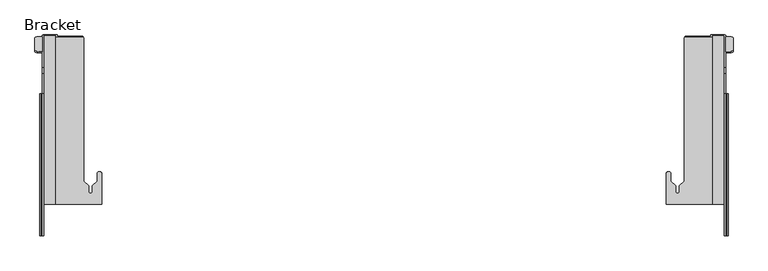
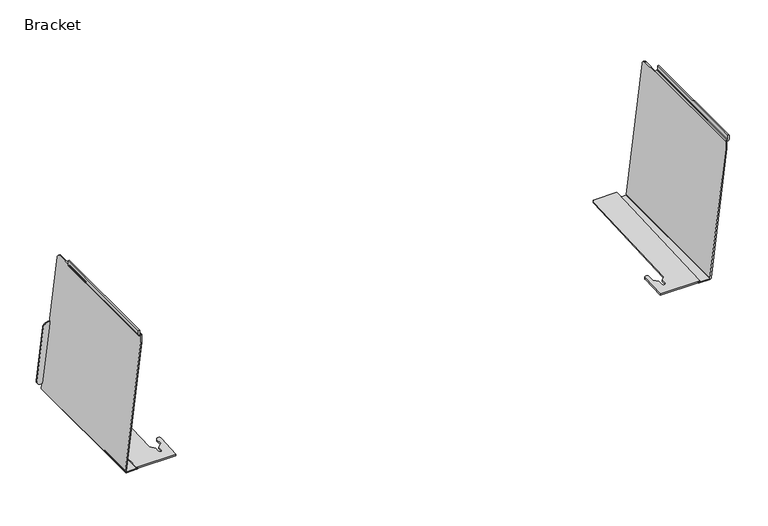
"""IFC4 building model written with IfcOpenShell, lengths in millimetres: furniture geometry, Steelcase Turnstone - Bivi - Seat - Rumble Seat - Table Frame Attachment Bracket : Bracket."""

from ifc_helpers import new_model, si_unit, frame, origin, place, context, project, spatial, polyline, circle_curve, ellipse_curve, source, transform, mapped, element, save
from ifc_brep_helpers import plane_surface, cylinder_surface, revolved_surface, advanced_brep


def bracket_b20a2959(model_context):
    return source(origin(), model_context, "Body", "AdvancedBrep", [
        advanced_brep(
        [(1584.7267646, 163.5694426, 504.6641143), (1596.6565127, 165.6410462, 492.9154667), (1596.6565127, 194.0437098, 331.8359571), (1583.9565157, 196.2490672, 319.3287534), (1580.6037127, 196.2490672, 319.3287534), (1580.6037127, 163.5694426, 504.6641143), (1584.7267646, 161.2981934, 504.2522241), (1580.6037127, 161.2981934, 504.2522241), (1580.6037127, 194.8790539, 319.080302), (1583.9565157, 194.8790539, 319.080302), (1596.6565127, 192.6128772, 331.5764762), (1596.6565127, 163.4269275, 492.5139371)],
        [
            (0, 1, ellipse_curve(frame((1584.7267646, 165.6410462, 492.9154667), z_axis=(0.0, 0.9848077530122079, 0.17364817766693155), x_axis=(0.0, 0.1736481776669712, -0.984807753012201)), 11.9298894, 11.9297481)),
            (1, 2),
            (2, 3, ellipse_curve(frame((1583.9565157, 194.0437098, 331.8359571), z_axis=(0.0, 0.9848077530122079, 0.17364817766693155), x_axis=(0.0, 0.1736481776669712, -0.984807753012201)), 12.7001475, 12.6999971)),
            (3, 4),
            (4, 5),
            (5, 0),
            (6, 7),
            (7, 8),
            (8, 9),
            (9, 10, circle_curve(frame((1583.9565157, 192.6128772, 331.5764762), z_axis=(0.0, -0.9839509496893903, -0.1784391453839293), x_axis=(0.0, 0.1784391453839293, -0.9839509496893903)), 12.6999971)),
            (10, 11),
            (11, 6, circle_curve(frame((1584.7267646, 163.4269275, 492.5139371), z_axis=(0.0, -0.9839509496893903, -0.1784391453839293), x_axis=(0.0, 0.1784391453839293, -0.9839509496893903)), 11.9297481)),
            (6, 0),
            (5, 7),
            (4, 8),
            (3, 9),
            (2, 10),
            (1, 11),
        ],
        [
            plane_surface(frame((-105.6465848, 130.1351991, 694.2791319), z_axis=(0.0, 0.9848077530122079, 0.17364817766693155), x_axis=(1.0, 0.0, 0.0))),
            plane_surface(frame((1584.7267646, 165.5556615, 480.7756501), z_axis=(0.0, -0.9839509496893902, -0.17843914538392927), x_axis=(-1.0, 0.0, 0.0))),
            plane_surface(frame((1580.6037127, 161.2981934, 504.2522241), z_axis=(0.0, -0.17843914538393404, 0.9839509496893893), x_axis=(0.0, 0.9839509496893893, 0.17843914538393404))),
            plane_surface(frame((1580.6037127, 194.8790539, 319.080302), z_axis=(-1.0, 0.0, 0.0), x_axis=(0.0, 0.9839509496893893, 0.17843914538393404))),
            plane_surface(frame((1583.9565157, 194.8790539, 319.080302), z_axis=(0.0, 0.17843914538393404, -0.9839509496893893), x_axis=(0.0, 0.9839509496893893, 0.17843914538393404))),
            cylinder_surface(frame((1583.9565157, 195.6877218, 332.1340981), z_axis=(0.0, -0.9839509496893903, -0.1784391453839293), x_axis=(0.0, 0.1784391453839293, -0.9839509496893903)), 12.6999971),
            plane_surface(frame((1596.6565127, 163.4269275, 492.5139371), z_axis=(1.0, 0.0, 0.0), x_axis=(0.0, 0.9839509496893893, 0.17843914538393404))),
            cylinder_surface(frame((1584.7267646, 166.501772, 493.071559), z_axis=(0.0, -0.9839509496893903, -0.1784391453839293), x_axis=(0.0, 0.1784391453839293, -0.9839509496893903)), 11.9297481),
        ],
        [
            (0, [[1, 2, 3, 4, 5, 6]]),
            (1, [[7, 8, 9, 10, 11, 12]]),
            (2, [[13, -6, 14, -7]]),
            (3, [[-14, -5, 15, -8]]),
            (4, [[-15, -4, 16, -9]]),
            (5, [[-16, -3, 17, -10]]),
            (6, [[-17, -2, 18, -11]]),
            (7, [[-18, -1, -13, -12]]),
        ],
    ),
        advanced_brep(
        [(1552.0033127, 199.8723316, 298.7802), (1548.3318209, 199.8723316, 298.7802), (1548.3318209, 196.7451878, 316.5151141), (1493.0789112, 196.7451878, 316.5151141), (1492.7043624, 196.1325541, 319.9895321), (1552.0033127, 196.1325541, 319.9895321), (1452.5623127, -99.7722819, 307.2629397), (1452.5623127, -99.7722819, 303.2057285), (1452.5623127, -164.732528, 300.2899442), (1452.5623127, -164.732528, 304.4690599), (1552.0033127, -164.732528, 298.7802), (1552.0033127, -164.732528, 304.4690599), (1490.9912172, 189.7048221, 319.7130813), (1490.9912172, -115.0343618, 306.6065319), (1480.8833127, -125.1314569, 306.1722652), (1480.8833127, -137.4119102, 305.6440943), (1472.5013127, -137.4119102, 305.6440943), (1472.5013127, -125.1314569, 306.1722652), (1462.7223127, -115.3629146, 306.5924011), (1462.7223127, -99.7722819, 307.2629397), (1548.3318209, -164.732528, 300.2899442), (1548.3318209, -164.732528, 298.7802), (1490.9912172, 189.7048221, 316.1991026), (1462.7223127, -99.7722819, 303.2057285), (1462.7223127, -115.3629146, 302.5059325), (1472.5013127, -125.1314569, 302.0674649), (1472.5013127, -137.4119102, 301.5162485), (1480.8833127, -137.4119102, 301.5162485), (1480.8833127, -125.1314569, 302.0674649), (1490.9912172, -115.0343618, 302.5206798)],
        [
            (0, 1),
            (1, 2),
            (2, 3),
            (3, 4, ellipse_curve(frame((1503.9062358, 189.7048221, 356.4430116), z_axis=(0.0, 0.9848077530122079, 0.17364817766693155), x_axis=(0.0, 0.17364817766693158, -0.984807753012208)), 74.3746277, 12.9150186)),
            (4, 5),
            (5, 0),
            (6, 7),
            (7, 8),
            (8, 9),
            (9, 6),
            (10, 0),
            (5, 11),
            (11, 10),
            (4, 12, ellipse_curve(frame((1503.9062358, 189.7048221, 319.7130813), z_axis=(0.0, -0.04296934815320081, 0.9990763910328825), x_axis=(0.0, -0.9990763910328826, -0.04296934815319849)), 12.926958, 12.9150186)),
            (12, 13),
            (13, 14),
            (14, 15),
            (15, 16, ellipse_curve(frame((1476.6923127, -137.4119102, 305.6440943), z_axis=(0.0, 0.04296934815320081, -0.9990763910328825), x_axis=(0.0, 0.9990763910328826, 0.04296934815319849)), 4.1948744, 4.191)),
            (16, 17),
            (17, 18),
            (18, 19),
            (19, 6, ellipse_curve(frame((1457.6423127, -99.7722819, 307.2629397), z_axis=(0.0, -0.04296934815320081, 0.9990763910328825), x_axis=(0.0, -0.9990763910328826, -0.04296934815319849)), 5.0846963, 5.08)),
            (9, 11),
            (8, 20),
            (20, 21),
            (21, 10),
            (21, 1),
            (3, 22, ellipse_curve(frame((1503.9062358, 189.7048221, 316.1991026), z_axis=(0.0, -0.044840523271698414, 0.9989941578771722), x_axis=(0.0, -0.9989941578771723, -0.04484052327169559)), 12.9280221, 12.9150186)),
            (22, 12),
            (19, 23),
            (23, 7, ellipse_curve(frame((1457.6423127, -99.7722819, 303.2057285), z_axis=(0.0, -0.044840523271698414, 0.9989941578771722), x_axis=(0.0, -0.9989941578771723, -0.04484052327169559)), 5.0851148, 5.08)),
            (18, 24),
            (24, 23),
            (17, 25),
            (25, 24),
            (16, 26),
            (26, 25),
            (15, 27),
            (27, 26, ellipse_curve(frame((1476.6923127, -137.4119102, 301.5162485), z_axis=(0.0, 0.044840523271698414, -0.9989941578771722), x_axis=(0.0, 0.9989941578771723, 0.04484052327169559)), 4.1952197, 4.191)),
            (14, 28),
            (28, 27),
            (13, 29),
            (29, 28),
            (22, 29),
            (20, 2),
        ],
        [
            plane_surface(frame((-105.6465848, 130.1351991, 694.2791319), z_axis=(0.0, 0.9848077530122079, 0.17364817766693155), x_axis=(1.0, 0.0, 0.0))),
            plane_surface(frame((1452.5623127, -164.732528, 300.5888376), z_axis=(-1.0, 0.0, 0.0), x_axis=(0.0, 0.0, -1.0))),
            plane_surface(frame((1552.0033127, -164.732528, 300.5888376), z_axis=(1.0, 0.0, 0.0), x_axis=(0.0, 0.0, 1.0))),
            plane_surface(frame((1452.5623127, 200.4313954, 320.1744212), z_axis=(0.0, -0.04296934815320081, 0.9990763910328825), x_axis=(1.0, 0.0, 0.0))),
            plane_surface(frame((1452.5623127, -164.732528, 304.4690599), z_axis=(0.0, -1.0, 0.0), x_axis=(1.0, 0.0, 0.0))),
            plane_surface(frame((1452.5623127, -164.732528, 298.7802), z_axis=(0.0, 0.0, -1.0), x_axis=(1.0, 0.0, 0.0))),
            cylinder_surface(frame((1503.9062358, 189.7048221, 0.0), z_axis=(0.0, 0.0, -1.0), x_axis=(-1.0, 0.0, 0.0)), 12.9150186),
            cylinder_surface(frame((1457.6423127, -99.7722819, 0.0), z_axis=(0.0, 0.0, -1.0), x_axis=(-1.0, 0.0, 0.0)), 5.08),
            plane_surface(frame((1462.7223127, -115.3629146, 407.911709), z_axis=(1.0, 0.0, 0.0), x_axis=(0.0, 0.0, -1.0))),
            plane_surface(frame((1472.5013127, -125.1314569, 407.911709), z_axis=(0.7067283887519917, 0.7074849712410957, 0.0), x_axis=(0.0, 0.0, -1.0))),
            plane_surface(frame((1472.5013127, -137.4119102, 407.911709), z_axis=(1.0, 0.0, 0.0), x_axis=(0.0, 0.0, -1.0))),
            revolved_surface(polyline([(1472.5013127, -137.4119102, 305.82434531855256), (1472.5013127, -137.4119102, 301.3281326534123)]), (1476.6923127, -137.4119102, 0.0), (0.0, 0.0, 1.0)),
            plane_surface(frame((1480.8833127, -125.1314569, 407.911709), z_axis=(-1.0, 0.0, 0.0), x_axis=(0.0, 0.0, -1.0))),
            plane_surface(frame((1490.9912172, -115.0343618, 407.911709), z_axis=(-0.7067283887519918, 0.7074849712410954, 0.0), x_axis=(0.0, 0.0, -1.0))),
            plane_surface(frame((1490.9912172, 189.7048221, 407.911709), z_axis=(-1.0, 0.0, 0.0), x_axis=(0.0, 0.0, -1.0))),
            plane_surface(frame((1548.3318209, 201.7788062, 316.7410515), z_axis=(-1.0000000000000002, 0.0, 0.0), x_axis=(0.0, 0.9989941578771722, 0.044840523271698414))),
            plane_surface(frame((1548.3318209, -164.9966462, 300.2780891), z_axis=(0.0, 0.044840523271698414, -0.9989941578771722), x_axis=(-1.0, 0.0, 0.0))),
        ],
        [
            (0, [[1, 2, 3, 4, 5, 6]]),
            (1, [[7, 8, 9, 10]]),
            (2, [[11, -6, 12, 13]]),
            (3, [[-12, -5, 14, 15, 16, 17, 18, 19, 20, 21, 22, -10, 23]]),
            (4, [[-23, -9, 24, 25, 26, -13]]),
            (5, [[-26, 27, -1, -11]]),
            (6, [[-4, 28, 29, -14]]),
            (7, [[30, 31, -7, -22]]),
            (8, [[32, 33, -30, -21]]),
            (9, [[34, 35, -32, -20]]),
            (10, [[36, 37, -34, -19]]),
            (11, [[38, 39, -36, -18]]),
            (12, [[40, 41, -38, -17]]),
            (13, [[42, 43, -40, -16]]),
            (14, [[-29, 44, -42, -15]]),
            (15, [[-2, -27, -25, 45]]),
            (16, [[-24, -8, -31, -33, -35, -37, -39, -41, -43, -44, -28, -3, -45]]),
        ],
    ),
        advanced_brep(
        [(1583.5501127, -233.2990046, 720.9282), (1583.5501127, -233.2990046, 710.142903), (1582.8546097, -233.2990046, 709.4474), (1580.9927462, -233.2990046, 709.4474), (1577.6065127, -233.2990046, 706.0611666), (1577.6065127, -233.2990046, 687.6400124), (1580.6037127, -233.2990046, 687.6400124), (1580.6037127, -233.2990046, 705.8105541), (1581.2433586, -233.2990046, 706.4502), (1583.1203084, -233.2990046, 706.4502), (1586.5473127, -233.2990046, 709.8772043), (1586.5473127, -233.2990046, 720.9282), (1586.5473127, 72.9741954, 720.9282), (1583.5501127, 72.9741954, 720.9282), (1586.5473127, 72.9741954, 709.8772043), (1583.1203084, 72.9741954, 706.4502), (1581.2433586, 72.9741954, 706.4502), (1580.6037127, 72.9741954, 705.8105541), (1580.6037127, -165.4043338, 302.5902), (1580.6037127, 199.2005258, 302.5902), (1580.6037127, 130.1351991, 694.2791319), (1580.6037127, 117.6281406, 704.7738), (1580.6037127, 72.9741954, 704.7738), (1576.7937127, -164.732528, 298.7802), (1576.7937127, 199.8723316, 298.7802), (1552.0541127, -164.732528, 298.7802), (1552.0541127, 199.8723316, 298.7802), (1548.3318209, -165.2610152, 301.7774), (1548.3318209, 199.3438444, 301.7774), (1576.8244238, -165.2610152, 301.7774), (1576.8244238, 199.3438444, 301.7774), (1577.6065127, -165.3989186, 302.559489), (1577.6065127, 199.205941, 302.559489), (1577.6065127, 72.9741954, 706.0611666), (1577.6065127, 72.9741954, 704.7738), (1577.6065127, 117.6281406, 704.7738), (1577.6065127, 130.1351991, 694.2791319), (1580.9927462, 72.9741954, 709.4474), (1582.8546097, 72.9741954, 709.4474), (1583.5501127, 72.9741954, 710.142903)],
        [
            (0, 1),
            (1, 2, circle_curve(frame((1582.8546097, -233.2990046, 710.142903), z_axis=(0.0, 1.0, 0.0), x_axis=(-1.0, 0.0, 0.0)), 0.695503)),
            (2, 3),
            (3, 4, circle_curve(frame((1580.9927462, -233.2990046, 706.0611666), z_axis=(0.0, -1.0, 0.0), x_axis=(-1.0, 0.0, 0.0)), 3.3862334)),
            (4, 5),
            (5, 6),
            (6, 7),
            (7, 8, circle_curve(frame((1581.2433586, -233.2990046, 705.8105541), z_axis=(0.0, 1.0, 0.0), x_axis=(-1.0, 0.0, 0.0)), 0.6396459)),
            (8, 9),
            (9, 10, circle_curve(frame((1583.1203084, -233.2990046, 709.8772043), z_axis=(0.0, -1.0, 0.0), x_axis=(-1.0, 0.0, 0.0)), 3.4270043)),
            (10, 11),
            (11, 0),
            (11, 12),
            (12, 13),
            (13, 0),
            (10, 14),
            (14, 12),
            (9, 15),
            (15, 14, circle_curve(frame((1583.1203084, 72.9741954, 709.8772043), z_axis=(0.0, -1.0, 0.0), x_axis=(-1.0, 0.0, 0.0)), 3.4270043)),
            (8, 16),
            (16, 15),
            (7, 17),
            (17, 16, circle_curve(frame((1581.2433586, 72.9741954, 705.8105541), z_axis=(0.0, 1.0, 0.0), x_axis=(-1.0, 0.0, 0.0)), 0.6396459)),
            (6, 18),
            (18, 19),
            (19, 20),
            (20, 21, circle_curve(frame((1580.6037127, 117.6281406, 692.0738), z_axis=(1.0, 0.0, 0.0), x_axis=(0.0, 1.0, 0.0)), 12.7)),
            (21, 22),
            (22, 17),
            (18, 23, ellipse_curve(frame((1576.7937127, -165.4043338, 302.5902), z_axis=(0.0, 0.9848077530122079, 0.17364817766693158), x_axis=(0.0, 0.173648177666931, -0.984807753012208)), 3.8687754, 3.81)),
            (23, 24),
            (24, 19, ellipse_curve(frame((1576.7937127, 199.2005258, 302.5902), z_axis=(0.0, -0.9848077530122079, -0.17364817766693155), x_axis=(0.0, 0.173648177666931, -0.9848077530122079)), 3.8687754, 3.81)),
            (23, 25),
            (25, 26),
            (26, 24),
            (25, 27, ellipse_curve(frame((1552.0541127, -165.4043338, 302.5902), z_axis=(0.0, 0.9848077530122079, 0.17364817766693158), x_axis=(0.0, 0.173648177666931, -0.984807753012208)), 3.8687754, 3.81)),
            (27, 28),
            (28, 26, ellipse_curve(frame((1552.0541127, 199.2005258, 302.5902), z_axis=(0.0, -0.9848077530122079, -0.17364817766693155), x_axis=(0.0, 0.173648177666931, -0.9848077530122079)), 3.8687754, 3.81)),
            (27, 29),
            (29, 30),
            (30, 28),
            (29, 31, ellipse_curve(frame((1576.8244238, -165.3989186, 302.559489), z_axis=(0.0, -0.9848077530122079, -0.17364817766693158), x_axis=(0.0, -0.173648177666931, 0.984807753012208)), 0.7941539, 0.782089)),
            (31, 32),
            (32, 30, ellipse_curve(frame((1576.8244238, 199.205941, 302.559489), z_axis=(0.0, 0.9848077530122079, 0.17364817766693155), x_axis=(0.0, -0.173648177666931, 0.9848077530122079)), 0.7941539, 0.782089)),
            (4, 33),
            (33, 34),
            (34, 35),
            (35, 36, circle_curve(frame((1577.6065127, 117.6281406, 692.0738), z_axis=(-1.0, 0.0, 0.0), x_axis=(0.0, 1.0, 0.0)), 12.7)),
            (36, 32),
            (31, 5),
            (3, 37),
            (37, 33, circle_curve(frame((1580.9927462, 72.9741954, 706.0611666), z_axis=(0.0, -1.0, 0.0), x_axis=(-1.0, 0.0, 0.0)), 3.3862334)),
            (2, 38),
            (38, 37),
            (1, 39),
            (39, 38, circle_curve(frame((1582.8546097, 72.9741954, 710.142903), z_axis=(0.0, 1.0, 0.0), x_axis=(-1.0, 0.0, 0.0)), 0.695503)),
            (13, 39),
            (22, 34),
            (36, 20),
            (35, 21),
        ],
        [
            plane_surface(frame((1583.5501127, -233.2990046, 710.142903), z_axis=(0.0, -1.0, 0.0), x_axis=(0.0, 0.0, 1.0))),
            plane_surface(frame((1586.5473127, 200.4313954, 720.9282), z_axis=(0.0, 0.0, 1.0), x_axis=(0.0, -1.0, 0.0))),
            plane_surface(frame((1586.5473127, 200.4313954, 709.8772043), z_axis=(1.0, 0.0, 0.0), x_axis=(0.0, -1.0, 0.0))),
            cylinder_surface(frame((1583.1203084, -233.2990046, 709.8772043), z_axis=(0.0, 1.0, 0.0), x_axis=(-1.0, 0.0, 0.0)), 3.4270043),
            plane_surface(frame((1581.2433586, 200.4313954, 706.4502), z_axis=(-5.552943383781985e-12, 0.0, -1.0), x_axis=(0.0, -1.0, 0.0))),
            revolved_surface(polyline([(1580.6037127, -233.2990046, 705.8105541), (1580.6037127, 72.97419539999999, 705.8105541)]), (1581.2433586, -233.2990046, 705.8105541), (0.0, -1.0, 0.0)),
            plane_surface(frame((1580.6037127, 200.4313954, 302.5902), z_axis=(1.0, 0.0, 0.0), x_axis=(0.0, -1.0, 0.0))),
            cylinder_surface(frame((1576.7937127, -233.2990046, 302.5902), z_axis=(0.0, 1.0, 0.0), x_axis=(-1.0, 0.0, 0.0)), 3.81),
            plane_surface(frame((1552.0541127, 200.4313954, 298.7802), z_axis=(0.0, 0.0, -1.0), x_axis=(0.0, -1.0, 0.0))),
            cylinder_surface(frame((1552.0541127, -233.2990046, 302.5902), z_axis=(0.0, 1.0, 0.0), x_axis=(-1.0, 0.0, 0.0)), 3.81),
            plane_surface(frame((1576.8244238, 200.4313954, 301.7774), z_axis=(0.0, 0.0, 1.0), x_axis=(0.0, -1.0, 0.0))),
            revolved_surface(polyline([(1576.0423348, -165.5368219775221, 302.559489), (1576.0423348, 199.34384439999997, 302.559489)]), (1576.8244238, -233.2990046, 302.559489), (0.0, -1.0, 0.0)),
            plane_surface(frame((1577.6065127, 200.4313954, 706.0611666), z_axis=(-1.0, 0.0, 0.0), x_axis=(0.0, -1.0, 0.0))),
            cylinder_surface(frame((1580.9927462, -233.2990046, 706.0611666), z_axis=(0.0, 1.0, 0.0), x_axis=(-1.0, 0.0, 0.0)), 3.3862334),
            plane_surface(frame((1582.8546097, 200.4313954, 709.4474), z_axis=(-9.523764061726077e-12, 0.0, 1.0), x_axis=(0.0, -1.0, 0.0))),
            revolved_surface(polyline([(1582.1591067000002, -233.2990046, 710.142903), (1582.1591067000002, 72.97419539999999, 710.142903)]), (1582.8546097, -233.2990046, 710.142903), (0.0, -1.0, 0.0)),
            plane_surface(frame((1583.5501127, 200.4313954, 720.9282), z_axis=(-1.0, 0.0, 0.0), x_axis=(0.0, -1.0, 0.0))),
            plane_surface(frame((-105.6465848, -158.3177215, 262.4000247), z_axis=(0.0, -0.9848077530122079, -0.17364817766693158), x_axis=(1.0, 0.0, 0.0))),
            plane_surface(frame((-105.6465848, 72.9741954, 720.9282), z_axis=(0.0, 1.0, 0.0), x_axis=(1.0, 0.0, 0.0))),
            plane_surface(frame((-105.6465848, 130.1351991, 694.2791319), z_axis=(0.0, 0.9848077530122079, 0.17364817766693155), x_axis=(1.0, 0.0, 0.0))),
            cylinder_surface(frame((889.0125127, 117.6281406, 692.0738), z_axis=(1.0, 0.0, 0.0), x_axis=(0.0, 1.0, 0.0)), 12.7),
            plane_surface(frame((-105.6465848, 72.9741954, 704.7738), z_axis=(0.0, 0.0, 1.0), x_axis=(1.0, 0.0, 0.0))),
        ],
        [
            (0, [[1, 2, 3, 4, 5, 6, 7, 8, 9, 10, 11, 12]]),
            (1, [[13, 14, 15, -12]]),
            (2, [[16, 17, -13, -11]]),
            (3, [[18, 19, -16, -10]]),
            (4, [[20, 21, -18, -9]]),
            (5, [[22, 23, -20, -8]]),
            (6, [[24, 25, 26, 27, 28, 29, -22, -7]]),
            (7, [[30, 31, 32, -25]]),
            (8, [[33, 34, 35, -31]]),
            (9, [[36, 37, 38, -34]]),
            (10, [[39, 40, 41, -37]]),
            (11, [[42, 43, 44, -40]]),
            (12, [[45, 46, 47, 48, 49, -43, 50, -5]]),
            (13, [[51, 52, -45, -4]]),
            (14, [[53, 54, -51, -3]]),
            (15, [[55, 56, -53, -2]]),
            (16, [[-15, 57, -55, -1]]),
            (17, [[-50, -42, -39, -36, -33, -30, -24, -6]]),
            (18, [[-46, -52, -54, -56, -57, -14, -17, -19, -21, -23, -29, 58]]),
            (19, [[-26, -32, -35, -38, -41, -44, -49, 59]]),
            (20, [[-48, 60, -27, -59]]),
            (21, [[-47, -58, -28, -60]]),
        ],
    ),
        advanced_brep(
        [(103.4330609, 161.2981934, 504.2522241), (91.5033127, 163.4269275, 492.5139371), (91.5033127, 192.6128772, 331.5764762), (104.2033098, 194.8790539, 319.080302), (107.5561127, 194.8790539, 319.080302), (107.5561127, 161.2981934, 504.2522241), (107.5561127, 163.5694426, 504.6641143), (103.4330609, 163.5694426, 504.6641143), (107.5561127, 196.2490672, 319.3287534), (104.2033098, 196.2490672, 319.3287534), (91.5033127, 194.0437098, 331.8359571), (91.5033127, 165.6410462, 492.9154667)],
        [
            (0, 1, circle_curve(frame((103.4330609, 163.4269275, 492.5139371), z_axis=(0.0, -0.9839509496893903, -0.1784391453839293), x_axis=(1.0, 0.0, 0.0)), 11.9297481)),
            (1, 2),
            (2, 3, circle_curve(frame((104.2033098, 192.6128772, 331.5764762), z_axis=(0.0, -0.9839509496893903, -0.1784391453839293), x_axis=(1.0, 0.0, 0.0)), 12.6999971)),
            (3, 4),
            (4, 5),
            (5, 0),
            (5, 6),
            (6, 7),
            (7, 0),
            (4, 8),
            (8, 6),
            (3, 9),
            (9, 8),
            (2, 10),
            (10, 9, ellipse_curve(frame((104.2033098, 194.0437098, 331.8359571), z_axis=(0.0, -0.9848077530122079, -0.17364817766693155), x_axis=(0.0, 0.1736481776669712, -0.984807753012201)), 12.7001475, 12.6999971)),
            (1, 11),
            (11, 10),
            (7, 11, ellipse_curve(frame((103.4330609, 165.6410462, 492.9154667), z_axis=(0.0, -0.9848077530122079, -0.17364817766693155), x_axis=(0.0, 0.1736481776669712, -0.984807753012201)), 11.9298894, 11.9297481)),
        ],
        [
            plane_surface(frame((107.5561127, 161.2981934, 504.2522241), z_axis=(0.0, -0.9839509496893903, -0.1784391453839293), x_axis=(1.0, 0.0, 0.0))),
            plane_surface(frame((103.4330609, 161.2981934, 504.2522241), z_axis=(0.0, -0.17843914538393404, 0.9839509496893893), x_axis=(0.0, 0.9839509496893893, 0.17843914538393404))),
            plane_surface(frame((107.5561127, 161.2981934, 504.2522241), z_axis=(1.0, 0.0, 0.0), x_axis=(0.0, 0.9839509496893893, 0.17843914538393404))),
            plane_surface(frame((107.5561127, 194.8790539, 319.080302), z_axis=(0.0, 0.17843914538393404, -0.9839509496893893), x_axis=(0.0, 0.9839509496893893, 0.17843914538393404))),
            cylinder_surface(frame((104.2033098, 195.6877218, 332.1340981), z_axis=(0.0, -0.9839509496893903, -0.1784391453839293), x_axis=(1.0, 0.0, 0.0)), 12.6999971),
            plane_surface(frame((91.5033127, 192.6128772, 331.5764762), z_axis=(-1.0, 0.0, 0.0), x_axis=(0.0, 0.9839509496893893, 0.17843914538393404))),
            cylinder_surface(frame((103.4330609, 166.501772, 493.071559), z_axis=(0.0, -0.9839509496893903, -0.1784391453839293), x_axis=(1.0, 0.0, 0.0)), 11.9297481),
            plane_surface(frame((-105.6465848, 130.1351991, 694.2791319), z_axis=(0.0, 0.9848077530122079, 0.17364817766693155), x_axis=(1.0, 0.0, 0.0))),
        ],
        [
            (0, [[1, 2, 3, 4, 5, 6]]),
            (1, [[7, 8, 9, -6]]),
            (2, [[10, 11, -7, -5]]),
            (3, [[12, 13, -10, -4]]),
            (4, [[14, 15, -12, -3]]),
            (5, [[16, 17, -14, -2]]),
            (6, [[-9, 18, -16, -1]]),
            (7, [[-11, -13, -15, -17, -18, -8]]),
        ],
    ),
        advanced_brep(
        [(235.5975127, -164.732528, 300.2899442), (235.5975127, -99.7722819, 303.2057285), (235.5975127, -99.7722819, 307.2629397), (235.5975127, -164.732528, 304.4690599), (136.1565127, -164.732528, 304.4690599), (136.1565127, 196.1325541, 319.9895321), (136.1565127, 199.8723316, 298.7802), (136.1565127, -164.732528, 298.7802), (225.4375127, -99.7722819, 307.2629397), (225.4375127, -115.3629146, 306.5924011), (215.6585127, -125.1314569, 306.1722652), (215.6585127, -137.4119102, 305.6440943), (207.2765127, -137.4119102, 305.6440943), (207.2765127, -125.1314569, 306.1722652), (197.1686083, -115.0343618, 306.6065319), (197.1686083, 189.7048221, 319.7130813), (195.455463, 196.1325541, 319.9895321), (139.8280045, -164.732528, 298.7802), (139.8280045, -164.732528, 300.2899442), (139.8280045, 199.8723316, 298.7802), (139.8280045, 196.7451878, 316.5151141), (195.0809142, 196.7451878, 316.5151141), (197.1686083, 189.7048221, 316.1991026), (197.1686083, -115.0343618, 302.5206798), (207.2765127, -125.1314569, 302.0674649), (207.2765127, -137.4119102, 301.5162485), (215.6585127, -137.4119102, 301.5162485), (215.6585127, -125.1314569, 302.0674649), (225.4375127, -115.3629146, 302.5059325), (225.4375127, -99.7722819, 303.2057285)],
        [
            (0, 1),
            (1, 2),
            (2, 3),
            (3, 0),
            (4, 5),
            (5, 6),
            (6, 7),
            (7, 4),
            (2, 8, ellipse_curve(frame((230.5175127, -99.7722819, 307.2629397), z_axis=(0.0, -0.04296934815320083, 0.9990763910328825), x_axis=(0.0, -0.9990763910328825, -0.04296934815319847)), 5.0846963, 5.08)),
            (8, 9),
            (9, 10),
            (10, 11),
            (11, 12, ellipse_curve(frame((211.4675127, -137.4119102, 305.6440943), z_axis=(0.0, 0.04296934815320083, -0.9990763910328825), x_axis=(0.0, 0.9990763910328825, 0.04296934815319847)), 4.1948744, 4.191)),
            (12, 13),
            (13, 14),
            (14, 15),
            (15, 16, ellipse_curve(frame((184.2535897, 189.7048221, 319.7130813), z_axis=(0.0, -0.04296934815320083, 0.9990763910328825), x_axis=(0.0, -0.9990763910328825, -0.04296934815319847)), 12.926958, 12.9150186)),
            (16, 5),
            (4, 3),
            (7, 17),
            (17, 18),
            (18, 0),
            (6, 19),
            (19, 17),
            (19, 20),
            (20, 18),
            (20, 21),
            (21, 22, ellipse_curve(frame((184.2535897, 189.7048221, 316.1991026), z_axis=(0.0, 0.044840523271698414, -0.9989941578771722), x_axis=(0.0, -0.9989941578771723, -0.04484052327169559)), 12.9280221, 12.9150186)),
            (22, 23),
            (23, 24),
            (24, 25),
            (25, 26, ellipse_curve(frame((211.4675127, -137.4119102, 301.5162485), z_axis=(0.0, -0.044840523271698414, 0.9989941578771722), x_axis=(0.0, 0.9989941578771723, 0.04484052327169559)), 4.1952197, 4.191)),
            (26, 27),
            (27, 28),
            (28, 29),
            (29, 1, ellipse_curve(frame((230.5175127, -99.7722819, 303.2057285), z_axis=(0.0, 0.044840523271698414, -0.9989941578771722), x_axis=(0.0, -0.9989941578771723, -0.04484052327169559)), 5.0851148, 5.08)),
            (21, 16, ellipse_curve(frame((184.2535897, 189.7048221, 356.4430116), z_axis=(0.0, -0.9848077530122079, -0.17364817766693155), x_axis=(0.0, 0.17364817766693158, -0.984807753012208)), 74.3746277, 12.9150186)),
            (15, 22),
            (29, 8),
            (28, 9),
            (27, 10),
            (26, 11),
            (25, 12),
            (24, 13),
            (23, 14),
        ],
        [
            plane_surface(frame((235.5975127, 200.4313954, 320.1744212), z_axis=(1.0, 0.0, 0.0), x_axis=(0.0, 0.9990763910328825, 0.04296934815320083))),
            plane_surface(frame((136.1565127, 200.4313954, 320.1744212), z_axis=(-1.0, 0.0, 0.0), x_axis=(0.0, -0.9990763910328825, -0.04296934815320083))),
            plane_surface(frame((235.5975127, -164.732528, 304.4690599), z_axis=(0.0, -0.04296934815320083, 0.9990763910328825), x_axis=(-1.0, 0.0, 0.0))),
            plane_surface(frame((235.5975127, -164.732528, 298.7802), z_axis=(0.0, -1.0, 0.0), x_axis=(-1.0, 0.0, 0.0))),
            plane_surface(frame((235.5975127, 200.5813731, 298.7802), z_axis=(0.0, 0.0, -1.0), x_axis=(-1.0, 0.0, 0.0))),
            plane_surface(frame((139.8280045, -164.9966462, 300.2780891), z_axis=(1.0, 0.0, 0.0), x_axis=(0.0, 0.0, -1.0))),
            plane_surface(frame((139.8280045, 201.7788062, 316.7410515), z_axis=(0.0, 0.044840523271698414, -0.9989941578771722), x_axis=(1.0, 0.0, 0.0))),
            cylinder_surface(frame((184.2535897, 189.7048221, 0.0), z_axis=(0.0, 0.0, -1.0), x_axis=(1.0, 0.0, 0.0)), 12.9150186),
            cylinder_surface(frame((230.5175127, -99.7722819, 0.0), z_axis=(0.0, 0.0, -1.0), x_axis=(1.0, 0.0, 0.0)), 5.08),
            plane_surface(frame((225.4375127, -99.7722819, 407.911709), z_axis=(-1.0, 0.0, 0.0), x_axis=(0.0, 0.0, -1.0))),
            plane_surface(frame((225.4375127, -115.3629146, 407.911709), z_axis=(-0.7067283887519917, 0.7074849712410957, 0.0), x_axis=(0.0, 0.0, -1.0))),
            plane_surface(frame((215.6585127, -125.1314569, 407.911709), z_axis=(-1.0, 0.0, 0.0), x_axis=(0.0, 0.0, -1.0))),
            revolved_surface(polyline([(215.6585127, -137.4119102, 305.82434531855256), (215.6585127, -137.4119102, 301.3281326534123)]), (211.4675127, -137.4119102, 0.0), (0.0, 0.0, 1.0)),
            plane_surface(frame((207.2765127, -137.4119102, 407.911709), z_axis=(1.0, 0.0, 0.0), x_axis=(0.0, 0.0, -1.0))),
            plane_surface(frame((207.2765127, -125.1314569, 407.911709), z_axis=(0.7067283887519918, 0.7074849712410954, 0.0), x_axis=(0.0, 0.0, -1.0))),
            plane_surface(frame((197.1686083, -115.0343618, 407.911709), z_axis=(1.0, 0.0, 0.0), x_axis=(0.0, 0.0, -1.0))),
            plane_surface(frame((-105.6465848, 130.1351991, 694.2791319), z_axis=(0.0, 0.9848077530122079, 0.17364817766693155), x_axis=(1.0, 0.0, 0.0))),
        ],
        [
            (0, [[1, 2, 3, 4]]),
            (1, [[5, 6, 7, 8]]),
            (2, [[-3, 9, 10, 11, 12, 13, 14, 15, 16, 17, 18, -5, 19]]),
            (3, [[20, 21, 22, -4, -19, -8]]),
            (4, [[-7, 23, 24, -20]]),
            (5, [[-24, 25, 26, -21]]),
            (6, [[-26, 27, 28, 29, 30, 31, 32, 33, 34, 35, 36, -1, -22]]),
            (7, [[-28, 37, -17, 38]]),
            (8, [[-9, -2, -36, 39]]),
            (9, [[-35, 40, -10, -39]]),
            (10, [[-34, 41, -11, -40]]),
            (11, [[-33, 42, -12, -41]]),
            (12, [[-32, 43, -13, -42]]),
            (13, [[-31, 44, -14, -43]]),
            (14, [[-30, 45, -15, -44]]),
            (15, [[-16, -45, -29, -38]]),
            (16, [[-18, -37, -27, -25, -23, -6]]),
        ],
    ),
        advanced_brep(
        [(104.6097127, -233.2990046, 720.9282), (101.6125127, -233.2990046, 720.9282), (101.6125127, -233.2990046, 709.8772043), (105.039517, -233.2990046, 706.4502), (106.9164669, -233.2990046, 706.4502), (107.5561127, -233.2990046, 705.8105541), (107.5561127, -233.2990046, 687.6400124), (110.5533127, -233.2990046, 687.6400124), (110.5533127, -233.2990046, 706.0611666), (107.1670793, -233.2990046, 709.4474), (105.3052157, -233.2990046, 709.4474), (104.6097127, -233.2990046, 710.142903), (104.6097127, 72.9741954, 720.9282), (101.6125127, 72.9741954, 720.9282), (101.6125127, 72.9741954, 709.8772043), (105.039517, 72.9741954, 706.4502), (106.9164669, 72.9741954, 706.4502), (107.5561127, 72.9741954, 705.8105541), (107.5561127, 72.9741954, 704.7738), (107.5561127, 117.6281406, 704.7738), (107.5561127, 130.1351991, 694.2791319), (107.5561127, 199.2005258, 302.5902), (107.5561127, -165.4043338, 302.5902), (111.3661127, 199.8723316, 298.7802), (111.3661127, -164.732528, 298.7802), (136.1057127, 199.8723316, 298.7802), (136.1057127, -164.732528, 298.7802), (139.8280045, 199.3438444, 301.7774), (139.8280045, -131.5937616, 301.7774), (139.8280045, -165.2610152, 301.7774), (111.3354017, -165.2610152, 301.7774), (111.3354017, 199.3438444, 301.7774), (110.5533127, 199.205941, 302.559489), (110.5533127, -165.3989186, 302.559489), (110.5533127, 130.1351991, 694.2791319), (110.5533127, 117.6281406, 704.7738), (110.5533127, 72.9741954, 704.7738), (110.5533127, 72.9741954, 706.0611666), (107.1670793, 72.9741954, 709.4474), (105.3052157, 72.9741954, 709.4474), (104.6097127, 72.9741954, 710.142903)],
        [
            (0, 1),
            (1, 2),
            (2, 3, circle_curve(frame((105.039517, -233.2990046, 709.8772043), z_axis=(0.0, -1.0, 0.0), x_axis=(1.0, 0.0, 0.0)), 3.4270043)),
            (3, 4),
            (4, 5, circle_curve(frame((106.9164669, -233.2990046, 705.8105541), z_axis=(0.0, 1.0, 0.0), x_axis=(1.0, 0.0, 0.0)), 0.6396459)),
            (5, 6),
            (6, 7),
            (7, 8),
            (8, 9, circle_curve(frame((107.1670793, -233.2990046, 706.0611666), z_axis=(0.0, -1.0, 0.0), x_axis=(1.0, 0.0, 0.0)), 3.3862334)),
            (9, 10),
            (10, 11, circle_curve(frame((105.3052157, -233.2990046, 710.142903), z_axis=(0.0, 1.0, 0.0), x_axis=(1.0, 0.0, 0.0)), 0.695503)),
            (11, 0),
            (0, 12),
            (12, 13),
            (13, 1),
            (13, 14),
            (14, 2),
            (14, 15, circle_curve(frame((105.039517, 72.9741954, 709.8772043), z_axis=(0.0, -1.0, 0.0), x_axis=(1.0, 0.0, 0.0)), 3.4270043)),
            (15, 3),
            (15, 16),
            (16, 4),
            (16, 17, circle_curve(frame((106.9164669, 72.9741954, 705.8105541), z_axis=(0.0, 1.0, 0.0), x_axis=(1.0, 0.0, 0.0)), 0.6396459)),
            (17, 5),
            (17, 18),
            (18, 19),
            (19, 20, circle_curve(frame((107.5561127, 117.6281406, 692.0738), z_axis=(-1.0, 0.0, 0.0), x_axis=(0.0, 1.0, 0.0)), 12.7)),
            (20, 21),
            (21, 22),
            (22, 6),
            (21, 23, ellipse_curve(frame((111.3661127, 199.2005258, 302.5902), z_axis=(0.0, -0.9848077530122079, -0.1736481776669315), x_axis=(0.0, 0.17364817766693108, -0.984807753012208)), 3.8687754, 3.81)),
            (23, 24),
            (24, 22, ellipse_curve(frame((111.3661127, -165.4043338, 302.5902), z_axis=(0.0, 0.9848077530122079, 0.1736481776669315), x_axis=(0.0, 0.17364817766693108, -0.984807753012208)), 3.8687754, 3.81)),
            (23, 25),
            (25, 26),
            (26, 24),
            (25, 27, ellipse_curve(frame((136.1057127, 199.2005258, 302.5902), z_axis=(0.0, -0.9848077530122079, -0.1736481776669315), x_axis=(0.0, 0.17364817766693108, -0.984807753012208)), 3.8687754, 3.81)),
            (27, 28),
            (28, 29),
            (29, 26, ellipse_curve(frame((136.1057127, -165.4043338, 302.5902), z_axis=(0.0, 0.9848077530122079, 0.1736481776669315), x_axis=(0.0, 0.17364817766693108, -0.984807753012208)), 3.8687754, 3.81)),
            (30, 29),
            (27, 31),
            (31, 30),
            (31, 32, ellipse_curve(frame((111.3354017, 199.205941, 302.559489), z_axis=(0.0, 0.9848077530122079, 0.1736481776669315), x_axis=(0.0, -0.17364817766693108, 0.984807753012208)), 0.7941539, 0.782089)),
            (32, 33),
            (33, 30, ellipse_curve(frame((111.3354017, -165.3989186, 302.559489), z_axis=(0.0, -0.9848077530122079, -0.1736481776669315), x_axis=(0.0, -0.17364817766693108, 0.984807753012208)), 0.7941539, 0.782089)),
            (7, 33),
            (32, 34),
            (34, 35, circle_curve(frame((110.5533127, 117.6281406, 692.0738), z_axis=(1.0, 0.0, 0.0), x_axis=(0.0, 1.0, 0.0)), 12.7)),
            (35, 36),
            (36, 37),
            (37, 8),
            (37, 38, circle_curve(frame((107.1670793, 72.9741954, 706.0611666), z_axis=(0.0, -1.0, 0.0), x_axis=(1.0, 0.0, 0.0)), 3.3862334)),
            (38, 9),
            (38, 39),
            (39, 10),
            (39, 40, circle_curve(frame((105.3052157, 72.9741954, 710.142903), z_axis=(0.0, 1.0, 0.0), x_axis=(1.0, 0.0, 0.0)), 0.695503)),
            (40, 11),
            (40, 12),
            (36, 18),
            (20, 34),
            (19, 35),
        ],
        [
            plane_surface(frame((104.6097127, -233.2990046, 720.9282), z_axis=(0.0, -1.0, 0.0), x_axis=(1.0, 0.0, 0.0))),
            plane_surface(frame((104.6097127, 200.4313954, 720.9282), z_axis=(0.0, 0.0, 1.0), x_axis=(0.0, -1.0, 0.0))),
            plane_surface(frame((101.6125127, 200.4313954, 720.9282), z_axis=(-1.0, 0.0, 0.0), x_axis=(0.0, -1.0, 0.0))),
            cylinder_surface(frame((105.039517, -233.2990046, 709.8772043), z_axis=(0.0, 1.0, 0.0), x_axis=(1.0, 0.0, 0.0)), 3.4270043),
            plane_surface(frame((105.039517, 200.4313954, 706.4502), z_axis=(0.0, 0.0, -1.0), x_axis=(0.0, -1.0, 0.0))),
            revolved_surface(polyline([(107.55611280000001, -233.2990046, 705.8105541), (107.55611280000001, 72.97419539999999, 705.8105541)]), (106.9164669, -233.2990046, 705.8105541), (0.0, -1.0, 0.0)),
            plane_surface(frame((107.5561127, 200.4313954, 705.8105541), z_axis=(-1.0, 0.0, 0.0), x_axis=(0.0, -1.0, 0.0))),
            cylinder_surface(frame((111.3661127, -233.2990046, 302.5902), z_axis=(0.0, 1.0, 0.0), x_axis=(1.0, 0.0, 0.0)), 3.81),
            plane_surface(frame((111.3661127, 200.4313954, 298.7802), z_axis=(0.0, 0.0, -1.0), x_axis=(0.0, -1.0, 0.0))),
            cylinder_surface(frame((136.1057127, -233.2990046, 302.5902), z_axis=(0.0, 1.0, 0.0), x_axis=(1.0, 0.0, 0.0)), 3.81),
            plane_surface(frame((139.8280045, 200.4313954, 301.7774), z_axis=(0.0, 0.0, 1.0), x_axis=(0.0, -1.0, 0.0))),
            revolved_surface(polyline([(112.1174907, -165.5368219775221, 302.559489), (112.1174907, 199.34384439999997, 302.559489)]), (111.3354017, -233.2990046, 302.559489), (0.0, -1.0, 0.0)),
            plane_surface(frame((110.5533127, 200.4313954, 302.559489), z_axis=(1.0, 0.0, 0.0), x_axis=(0.0, -1.0, 0.0))),
            cylinder_surface(frame((107.1670793, -233.2990046, 706.0611666), z_axis=(0.0, 1.0, 0.0), x_axis=(1.0, 0.0, 0.0)), 3.3862334),
            plane_surface(frame((107.1670793, 200.4313954, 709.4474), z_axis=(0.0, 0.0, 1.0), x_axis=(0.0, -1.0, 0.0))),
            revolved_surface(polyline([(106.00071870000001, -233.2990046, 710.142903), (106.00071870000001, 72.97419539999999, 710.142903)]), (105.3052157, -233.2990046, 710.142903), (0.0, -1.0, 0.0)),
            plane_surface(frame((104.6097127, 200.4313954, 710.142903), z_axis=(1.0, 0.0, 0.0), x_axis=(0.0, -1.0, 0.0))),
            plane_surface(frame((1883.6716103, -233.2990046, 687.6400124), z_axis=(0.0, -0.9848077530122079, -0.1736481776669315), x_axis=(-1.0, 0.0, 0.0))),
            plane_surface(frame((1883.6716103, 72.9741954, 704.7738), z_axis=(0.0, 1.0, 0.0), x_axis=(-1.0, 0.0, 0.0))),
            plane_surface(frame((1883.6716103, 206.2871381, 262.4000247), z_axis=(0.0, 0.9848077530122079, 0.1736481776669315), x_axis=(-1.0, 0.0, 0.0))),
            cylinder_surface(frame((889.0125127, 117.6281406, 692.0738), z_axis=(-1.0, 0.0, 0.0), x_axis=(0.0, 1.0, 0.0)), 12.7),
            plane_surface(frame((1883.6716103, 117.6281406, 704.7738), z_axis=(0.0, 0.0, 1.0), x_axis=(-1.0, 0.0, 0.0))),
        ],
        [
            (0, [[1, 2, 3, 4, 5, 6, 7, 8, 9, 10, 11, 12]]),
            (1, [[13, 14, 15, -1]]),
            (2, [[-15, 16, 17, -2]]),
            (3, [[-17, 18, 19, -3]]),
            (4, [[-19, 20, 21, -4]]),
            (5, [[-21, 22, 23, -5]]),
            (6, [[-23, 24, 25, 26, 27, 28, 29, -6]]),
            (7, [[30, 31, 32, -28]]),
            (8, [[33, 34, 35, -31]]),
            (9, [[36, 37, 38, 39, -34]]),
            (10, [[40, -38, -37, 41, 42]]),
            (11, [[43, 44, 45, -42]]),
            (12, [[46, -44, 47, 48, 49, 50, 51, -8]]),
            (13, [[-51, 52, 53, -9]]),
            (14, [[-53, 54, 55, -10]]),
            (15, [[-55, 56, 57, -11]]),
            (16, [[-57, 58, -13, -12]]),
            (17, [[-29, -32, -35, -39, -40, -45, -46, -7]]),
            (18, [[-24, -22, -20, -18, -16, -14, -58, -56, -54, -52, -50, 59]]),
            (19, [[-47, -43, -41, -36, -33, -30, -27, 60]]),
            (20, [[-26, 61, -48, -60]]),
            (21, [[-49, -61, -25, -59]]),
        ],
    ),
    ])


if __name__ == "__main__":
    model = new_model("IFC4")
    model_context = context("Model", 3, world=origin())
    ifc_project = project(units=[si_unit("LENGTHUNIT", "METRE", prefix="MILLI")], contexts=[model_context])
    site = spatial("IfcSite", under=ifc_project)
    building = spatial("IfcBuilding", under=site)
    placement = place(None, origin())
    bracket_shape = bracket_b20a2959(model_context)
    element("IfcFurniture", 1, ObjectType="Steelcase Turnstone - Bivi - Seat - Rumble Seat - Table Frame Attachment Bracket : Bracket", at=placement, inside=building, context=model_context, shape_type="MappedRepresentation", body=[
        mapped(bracket_shape, transform((0.0, 0.0, 0.0), x_axis=(1.0, 0.0, 0.0), y_axis=(0.0, 1.0, 0.0), z_axis=(0.0, 0.0, 1.0))),
    ])
    save(model, "model.ifc")
